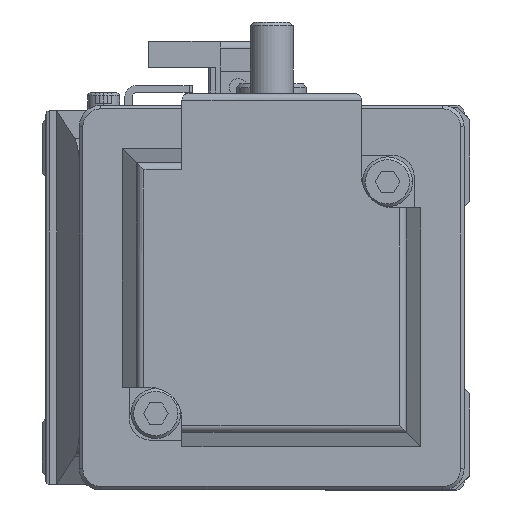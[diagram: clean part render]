
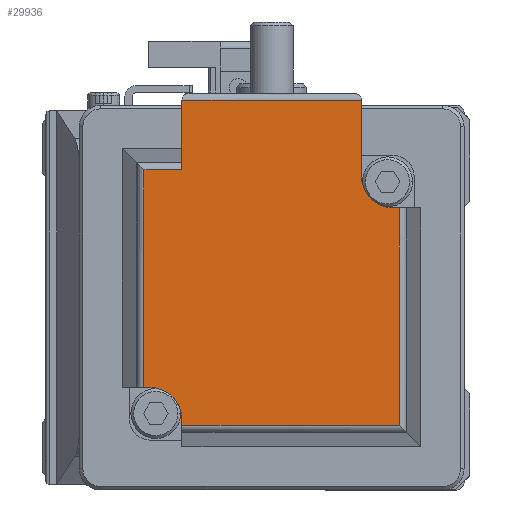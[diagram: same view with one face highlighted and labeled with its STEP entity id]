
A CAD part, left-side view. The second image highlights one B-rep face of the part: STEP entity #29936.
In plain terms, the highlighted planar face has unit normal (-1, 0, 0) as drawn and (0, 1, 0) by its records, which use the part's own axes.
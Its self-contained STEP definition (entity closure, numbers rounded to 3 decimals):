
#303 = LINE ( 'NONE', #16430, #26707 ) ;
#493 = ORIENTED_EDGE ( 'NONE', *, *, #8274, .F. ) ;
#589 = LINE ( 'NONE', #13568, #7416 ) ;
#794 = DIRECTION ( 'NONE',  ( 0., 0., 1. ) ) ;
#939 = DIRECTION ( 'NONE',  ( -1., 0., 0. ) ) ;
#966 = VERTEX_POINT ( 'NONE', #32037 ) ;
#1487 = EDGE_CURVE ( 'NONE', #6703, #10312, #3112, .T. ) ;
#1522 = VECTOR ( 'NONE', #19332, 1000. ) ;
#1585 = ORIENTED_EDGE ( 'NONE', *, *, #12262, .F. ) ;
#1629 = ORIENTED_EDGE ( 'NONE', *, *, #11867, .T. ) ;
#2162 = LINE ( 'NONE', #7826, #18166 ) ;
#2171 = VECTOR ( 'NONE', #16149, 1000. ) ;
#3112 = LINE ( 'NONE', #32476, #29099 ) ;
#3358 = DIRECTION ( 'NONE',  ( 0., 0., -1. ) ) ;
#3624 = EDGE_CURVE ( 'NONE', #966, #27967, #4177, .T. ) ;
#3888 = DIRECTION ( 'NONE',  ( 0., 0., 1. ) ) ;
#4037 = ORIENTED_EDGE ( 'NONE', *, *, #7658, .F. ) ;
#4177 = LINE ( 'NONE', #26973, #30588 ) ;
#4924 = VERTEX_POINT ( 'NONE', #18486 ) ;
#5759 = ORIENTED_EDGE ( 'NONE', *, *, #19460, .T. ) ;
#5764 = VERTEX_POINT ( 'NONE', #16210 ) ;
#6504 = VERTEX_POINT ( 'NONE', #8162 ) ;
#6626 = CARTESIAN_POINT ( 'NONE',  ( 12.6, 100.6, 17.929 ) ) ;
#6703 = VERTEX_POINT ( 'NONE', #9619 ) ;
#6941 = AXIS2_PLACEMENT_3D ( 'NONE', #31425, #16115, #3358 ) ;
#7413 = CARTESIAN_POINT ( 'NONE',  ( 17.929, 100.6, -17.929 ) ) ;
#7416 = VECTOR ( 'NONE', #794, 1000. ) ;
#7658 = EDGE_CURVE ( 'NONE', #4924, #5764, #589, .T. ) ;
#7826 = CARTESIAN_POINT ( 'NONE',  ( 17.929, 100.6, 17.929 ) ) ;
#8162 = CARTESIAN_POINT ( 'NONE',  ( 12.6, 100.6, 17.1 ) ) ;
#8274 = EDGE_CURVE ( 'NONE', #13478, #6703, #2162, .T. ) ;
#8345 = LINE ( 'NONE', #9126, #1522 ) ;
#8884 = ORIENTED_EDGE ( 'NONE', *, *, #22360, .F. ) ;
#8937 = DIRECTION ( 'NONE',  ( 0., -1., 0. ) ) ;
#8960 = FACE_OUTER_BOUND ( 'NONE', #22896, .T. ) ;
#9126 = CARTESIAN_POINT ( 'NONE',  ( 27.7, 100.6, 25. ) ) ;
#9619 = CARTESIAN_POINT ( 'NONE',  ( -17.929, 100.6, 17.929 ) ) ;
#9668 = ORIENTED_EDGE ( 'NONE', *, *, #23832, .F. ) ;
#10312 = VERTEX_POINT ( 'NONE', #27446 ) ;
#10700 = CARTESIAN_POINT ( 'NONE',  ( 17.1, 100.6, 17.1 ) ) ;
#10903 = CARTESIAN_POINT ( 'NONE',  ( 17.929, 100.6, -12.6 ) ) ;
#11321 = VERTEX_POINT ( 'NONE', #21467 ) ;
#11825 = DIRECTION ( 'NONE',  ( 0., 0., -1. ) ) ;
#11867 = EDGE_CURVE ( 'NONE', #29430, #23558, #19943, .T. ) ;
#11933 = EDGE_CURVE ( 'NONE', #6504, #13478, #303, .T. ) ;
#12262 = EDGE_CURVE ( 'NONE', #27967, #6504, #28278, .T. ) ;
#13384 = DIRECTION ( 'NONE',  ( 0., 1., 0. ) ) ;
#13465 = CARTESIAN_POINT ( 'NONE',  ( 17.929, 100.6, -12.6 ) ) ;
#13478 = VERTEX_POINT ( 'NONE', #6626 ) ;
#13568 = CARTESIAN_POINT ( 'NONE',  ( 17.929, 100.6, 25. ) ) ;
#14914 = VERTEX_POINT ( 'NONE', #15122 ) ;
#15122 = CARTESIAN_POINT ( 'NONE',  ( -12.6, 100.6, -17.929 ) ) ;
#16115 = DIRECTION ( 'NONE',  ( 0., -1., 0. ) ) ;
#16149 = DIRECTION ( 'NONE',  ( 1., 0., 0. ) ) ;
#16210 = CARTESIAN_POINT ( 'NONE',  ( 17.929, 100.6, -12.6 ) ) ;
#16430 = CARTESIAN_POINT ( 'NONE',  ( 12.6, 100.6, 25. ) ) ;
#16604 = CARTESIAN_POINT ( 'NONE',  ( -17.1, 100.6, -12.6 ) ) ;
#16758 = DIRECTION ( 'NONE',  ( 0., 0., -1. ) ) ;
#17354 = ORIENTED_EDGE ( 'NONE', *, *, #3624, .F. ) ;
#17921 = DIRECTION ( 'NONE',  ( 1., 0., 0. ) ) ;
#18166 = VECTOR ( 'NONE', #31078, 1000. ) ;
#18486 = CARTESIAN_POINT ( 'NONE',  ( 17.929, 100.6, -17.929 ) ) ;
#18684 = PLANE ( 'NONE',  #6941 ) ;
#19332 = DIRECTION ( 'NONE',  ( 0., 0., 1. ) ) ;
#19413 = EDGE_CURVE ( 'NONE', #10312, #23558, #23742, .T. ) ;
#19460 = EDGE_CURVE ( 'NONE', #14914, #29430, #28551, .T. ) ;
#19943 = CIRCLE ( 'NONE', #25702, 4.5 ) ;
#21054 = VECTOR ( 'NONE', #17921, 1000. ) ;
#21467 = CARTESIAN_POINT ( 'NONE',  ( 27.7, 100.6, -12.6 ) ) ;
#21712 = DIRECTION ( 'NONE',  ( 0., 0., 1. ) ) ;
#21988 = ORIENTED_EDGE ( 'NONE', *, *, #19413, .F. ) ;
#22360 = EDGE_CURVE ( 'NONE', #11321, #966, #8345, .T. ) ;
#22494 = CARTESIAN_POINT ( 'NONE',  ( 17.1, 100.6, 12.6 ) ) ;
#22896 = EDGE_LOOP ( 'NONE', ( #17354, #8884, #26979, #4037, #9668, #5759, #1629, #21988, #28696, #493, #32708, #1585 ) ) ;
#23406 = CARTESIAN_POINT ( 'NONE',  ( -12.6, 100.6, -21. ) ) ;
#23495 = DIRECTION ( 'NONE',  ( 1., 0., 0. ) ) ;
#23558 = VERTEX_POINT ( 'NONE', #16604 ) ;
#23742 = LINE ( 'NONE', #10903, #2171 ) ;
#23771 = VECTOR ( 'NONE', #23495, 1000. ) ;
#23832 = EDGE_CURVE ( 'NONE', #14914, #4924, #25057, .T. ) ;
#23839 = CARTESIAN_POINT ( 'NONE',  ( -12.6, 100.6, -17.1 ) ) ;
#24155 = VECTOR ( 'NONE', #21712, 1000. ) ;
#25057 = LINE ( 'NONE', #7413, #21054 ) ;
#25702 = AXIS2_PLACEMENT_3D ( 'NONE', #31925, #8937, #16758 ) ;
#26707 = VECTOR ( 'NONE', #3888, 1000. ) ;
#26973 = CARTESIAN_POINT ( 'NONE',  ( 17.929, 100.6, 12.6 ) ) ;
#26979 = ORIENTED_EDGE ( 'NONE', *, *, #29325, .F. ) ;
#27446 = CARTESIAN_POINT ( 'NONE',  ( -17.929, 100.6, -12.6 ) ) ;
#27967 = VERTEX_POINT ( 'NONE', #22494 ) ;
#28278 = CIRCLE ( 'NONE', #31309, 4.5 ) ;
#28551 = LINE ( 'NONE', #23406, #24155 ) ;
#28565 = DIRECTION ( 'NONE',  ( 0., 0., -1. ) ) ;
#28578 = LINE ( 'NONE', #13465, #23771 ) ;
#28696 = ORIENTED_EDGE ( 'NONE', *, *, #1487, .F. ) ;
#29099 = VECTOR ( 'NONE', #11825, 1000. ) ;
#29325 = EDGE_CURVE ( 'NONE', #5764, #11321, #28578, .T. ) ;
#29430 = VERTEX_POINT ( 'NONE', #23839 ) ;
#29936 = ADVANCED_FACE ( 'NONE', ( #8960 ), #18684, .F. ) ;
#30588 = VECTOR ( 'NONE', #939, 1000. ) ;
#31078 = DIRECTION ( 'NONE',  ( -1., 0., 0. ) ) ;
#31309 = AXIS2_PLACEMENT_3D ( 'NONE', #10700, #13384, #28565 ) ;
#31425 = CARTESIAN_POINT ( 'NONE',  ( 17.929, 100.6, 25. ) ) ;
#31925 = CARTESIAN_POINT ( 'NONE',  ( -17.1, 100.6, -17.1 ) ) ;
#32037 = CARTESIAN_POINT ( 'NONE',  ( 27.7, 100.6, 12.6 ) ) ;
#32476 = CARTESIAN_POINT ( 'NONE',  ( -17.929, 100.6, 25. ) ) ;
#32708 = ORIENTED_EDGE ( 'NONE', *, *, #11933, .F. ) ;
